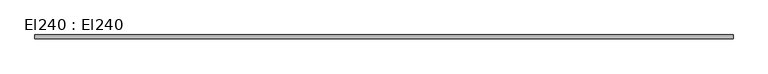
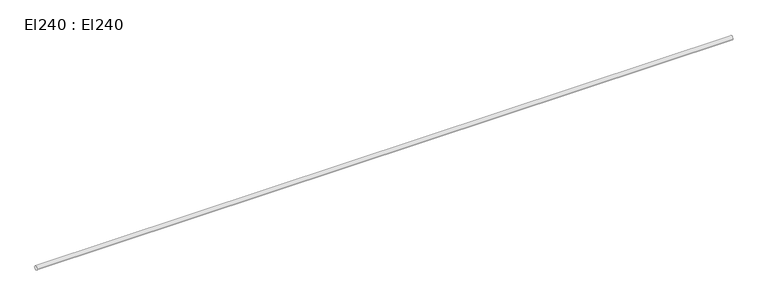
"""IFC4 building model written with IfcOpenShell, lengths in millimetres: cable carrier segment geometry, El240 : El240."""

from ifc_helpers import new_model, si_unit, point, frame, frame_2d, origin, place, context, project, spatial, circle_curve, trimmed, segment, composite_curve, outline, extrude, source, transform, mapped, element, save


def el240_el240_e02ca563(model_context):
    return source(origin(), model_context, "Body", "SweptSolid", [
        extrude(outline(composite_curve([segment(trimmed(circle_curve(frame_2d((28672.1, 2950.0)), 9.5), [point((28662.6, 2950.0))], [point((28681.6, 2950.0))], False, "CARTESIAN"), True, "CONTINUOUS"), segment(trimmed(circle_curve(frame_2d((28672.1, 2950.0)), 9.5), [point((28681.6, 2950.0))], [point((28662.6, 2950.0))], False, "CARTESIAN"), True, "CONTINUOUS")], self_intersect=False)), frame((3029.85, 0.0, 0.0), z_axis=(1.0, 0.0, 0.0), x_axis=(0.0, 1.0, 0.0)), (0.0, 0.0, 1.0), 3257.5),
    ])


if __name__ == "__main__":
    model = new_model("IFC4")
    model_context = context("Model", 3, world=origin())
    ifc_project = project(units=[si_unit("LENGTHUNIT", "METRE", prefix="MILLI")], contexts=[model_context])
    site = spatial("IfcSite", under=ifc_project)
    building = spatial("IfcBuilding", under=site)
    placement = place(None, origin())
    el240_el240_shape = el240_el240_e02ca563(model_context)
    element("IfcCableCarrierSegment", 1, ObjectType="El240 : El240", at=placement, inside=building, context=model_context, shape_type="MappedRepresentation", body=[
        mapped(el240_el240_shape, transform((0.0, 0.0, 0.0), x_axis=(1.0, 0.0, 0.0), y_axis=(0.0, 1.0, 0.0), z_axis=(0.0, 0.0, 1.0))),
    ])
    save(model, "model.ifc")
